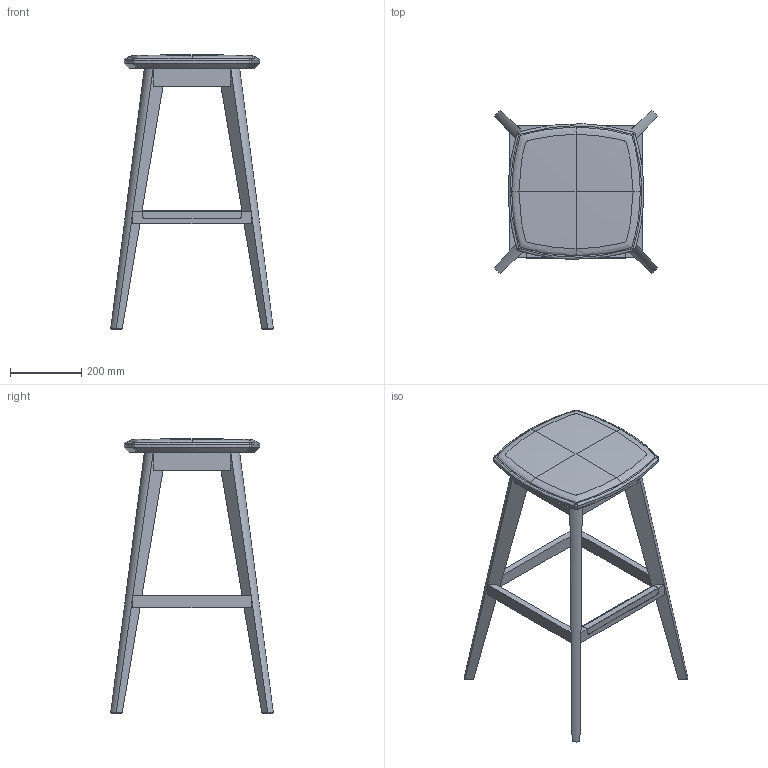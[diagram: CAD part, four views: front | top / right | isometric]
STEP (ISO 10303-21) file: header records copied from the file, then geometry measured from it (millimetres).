
FILE_DESCRIPTION(/* description */ (''),/* implementation_level */ '2;1');
FILE_NAME(/* name */ 'WITTYW~1',/* time_stamp */ '2017-10-02T15:42:55+02:00',/* author */ (''),/* organization */ (''),/* preprocessor_version */ 'ST-DEVELOPER v15',/* originating_system */ '',/* authorisation */ '');
FILE_SCHEMA (('CONFIG_CONTROL_DESIGN'));
Length unit declared in the file: millimetre
Products named in the file (1): Document
Bounding box: 455.49 x 455.49 x 768 mm (x, y, z)
Volume: 8722288.5 mm3; surface area: 1112393.6 mm2
Topology: 14 solids, 15 shells, 136 faces, 287 edges, 183 vertices
Faces by surface type: plane 80, bspline 56
Entity records: 4522 total; most frequent: CARTESIAN_POINT 2535, ORIENTED_EDGE 564, EDGE_CURVE 284, VERTEX_POINT 177, B_SPLINE_CURVE_WITH_KNOTS 175, ADVANCED_FACE 136, FACE_OUTER_BOUND 136, EDGE_LOOP 136
